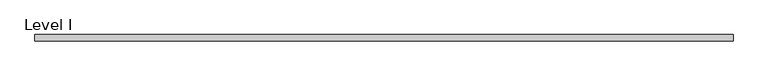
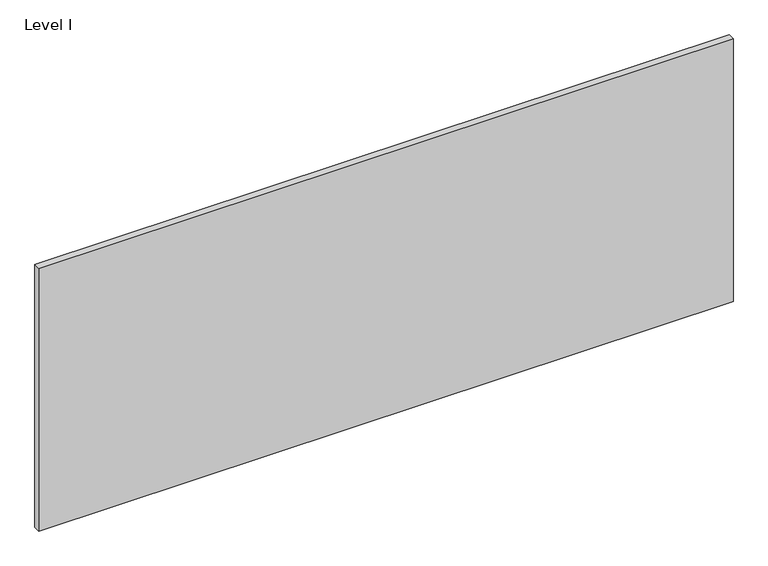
"""IFC4 building model written with IfcOpenShell, lengths in millimetres: proxy geometry, Panel-Fascia-Teknion-Altos-Landscape : Level I."""

from ifc_helpers import new_model, si_unit, frame, origin, place, context, project, spatial, polyline, outline, extrude, source, transform, mapped, element, save


def level_i_b1a3b441(model_context):
    return source(origin(), model_context, "Body", "SweptSolid", [
        extrude(outline(polyline([(1012.8305563, 9.525), (1012.8305563, -9.525), (-1012.8305562, -9.525), (-1012.8305562, 9.525), (1012.8305563, 9.525)])), frame((0.0, 0.0, 3.175), z_axis=(0.0, 0.0, 1.0), x_axis=(1.0, 0.0, 0.0)), (0.0, 0.0, 1.0), 810.768),
    ])


if __name__ == "__main__":
    model = new_model("IFC4")
    model_context = context("Model", 3, world=origin())
    ifc_project = project(units=[si_unit("LENGTHUNIT", "METRE", prefix="MILLI")], contexts=[model_context])
    site = spatial("IfcSite", under=ifc_project)
    building = spatial("IfcBuilding", under=site)
    placement = place(None, origin())
    level_i_shape = level_i_b1a3b441(model_context)
    element("IfcBuildingElementProxy", 1, Name="Panel-Fascia-Teknion-Altos-Landscape : Level I", ObjectType="Panel-Fascia-Teknion-Altos-Landscape : Level I", at=placement, inside=building, context=model_context, shape_type="MappedRepresentation", body=[
        mapped(level_i_shape, transform((0.0, 0.0, 0.0), x_axis=(1.0, 0.0, 0.0), y_axis=(0.0, 1.0, 0.0), z_axis=(0.0, 0.0, 1.0))),
    ])
    save(model, "model.ifc")
